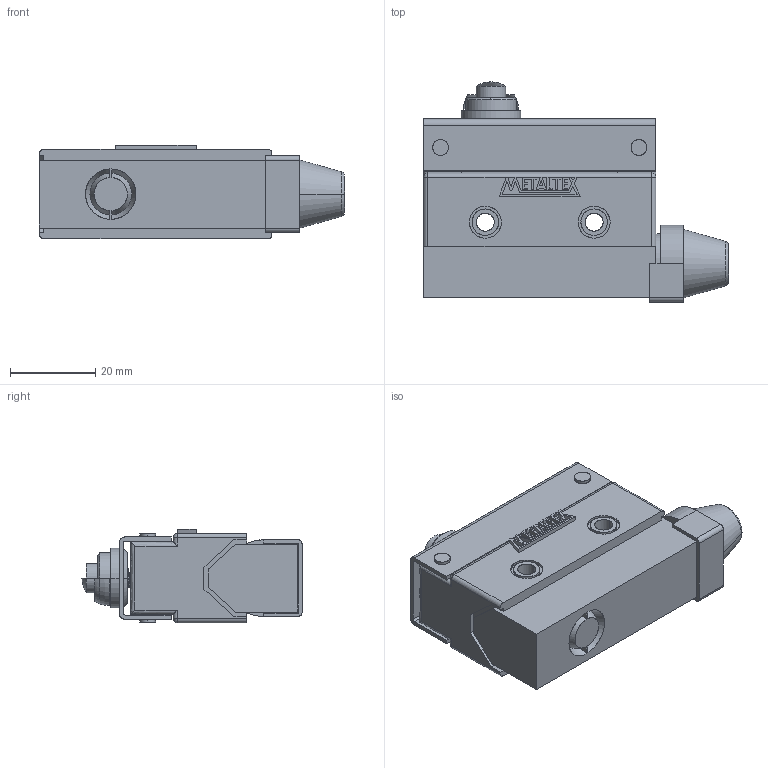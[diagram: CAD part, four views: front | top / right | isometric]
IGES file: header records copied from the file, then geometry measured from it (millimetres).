
Start section: SolidWorks IGES file using analytic representation for surfaces
Global section: file name: D:\X - Arquivos\PROEX\Empresas\P11 - METALTEX\01 - Produtos\IGES\4ª remessa\1ª etapa\FM7100.IGS; native system: SolidWorks 2012; preprocessor: SolidWorks 2012; author: Usuario; date: 180323.101852; units: millimetre
Bounding box: 71.5 x 51.6 x 22 mm (x, y, z)
Surface area: 15763.3 mm2 (no closed solid volume)
Topology: 0 solids, 0 shells, 352 faces, 4452 edges, 4439 vertices
Faces by surface type: bspline 225, revolution 127
